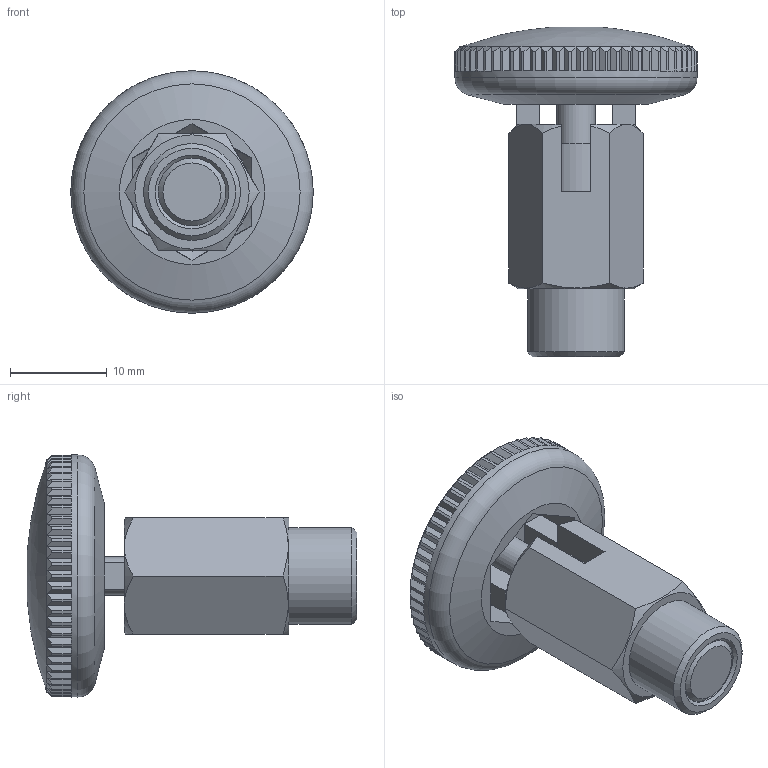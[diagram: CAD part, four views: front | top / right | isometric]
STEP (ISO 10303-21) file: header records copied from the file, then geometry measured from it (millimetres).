
FILE_DESCRIPTION( ( 'STEP AP203' ), '1' );
FILE_NAME( 'C:/Temp/Ganter_Step_05_03_2020/data/3_1/gn_822_1/gn822_1_stahl_rt/gn_822_1_c/Steel-Mini indexing plunger GN 822.1-7-C-ST-RT (activated).stp', '2020-03-12T09:23:20', ( 'License CC BY-ND 4.0' ), ( 'CADENAS' ), ' ', 'PARTsolutions', ' ' );
FILE_SCHEMA( ( 'CONFIG_CONTROL_DESIGN' ) );
Length unit declared in the file: millimetre
Products named in the file (3): Steel-Mini indexing plunger GN 822.1-7-C-ST-RT (activated); _Steel-Mini indexing plunger GN 822.1-7-C-ST-RT (activated)-1; _Steel-Mini indexing plunger GN 822.1-7-C-ST-RT (activated)-2
Assembly tree (2 placements, depth 2):
  Steel-Mini indexing plunger GN 822.1-7-C-ST-RT (activated)
    _Steel-Mini indexing plunger GN 822.1-7-C-ST-RT (activated)-1
    _Steel-Mini indexing plunger GN 822.1-7-C-ST-RT (activated)-2
Bounding box: 25 x 34 x 25 mm (x, y, z)
Volume: 5143.9 mm3; surface area: 3920.4 mm2
Topology: 2 solids, 2 shells, 254 faces, 725 edges, 478 vertices
Faces by surface type: plane 227, cone 18, cylinder 7, bspline 1, torus 1
Full cylindrical faces by diameter (mm): 4 x1, 7 x2, 10 x1, 25 x1
Entity records: 8515 total; most frequent: CARTESIAN_POINT 2044, ORIENTED_EDGE 1412, DIRECTION 1216, EDGE_CURVE 706, VERTEX_POINT 472, AXIS2_PLACEMENT_3D 416, LINE 384, VECTOR 384
